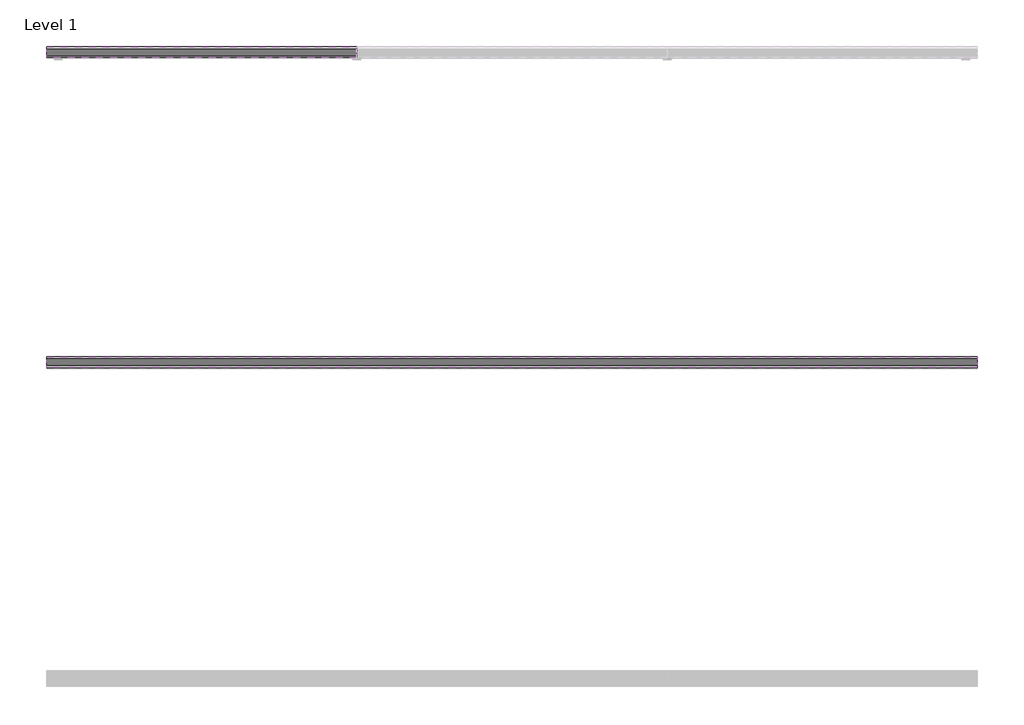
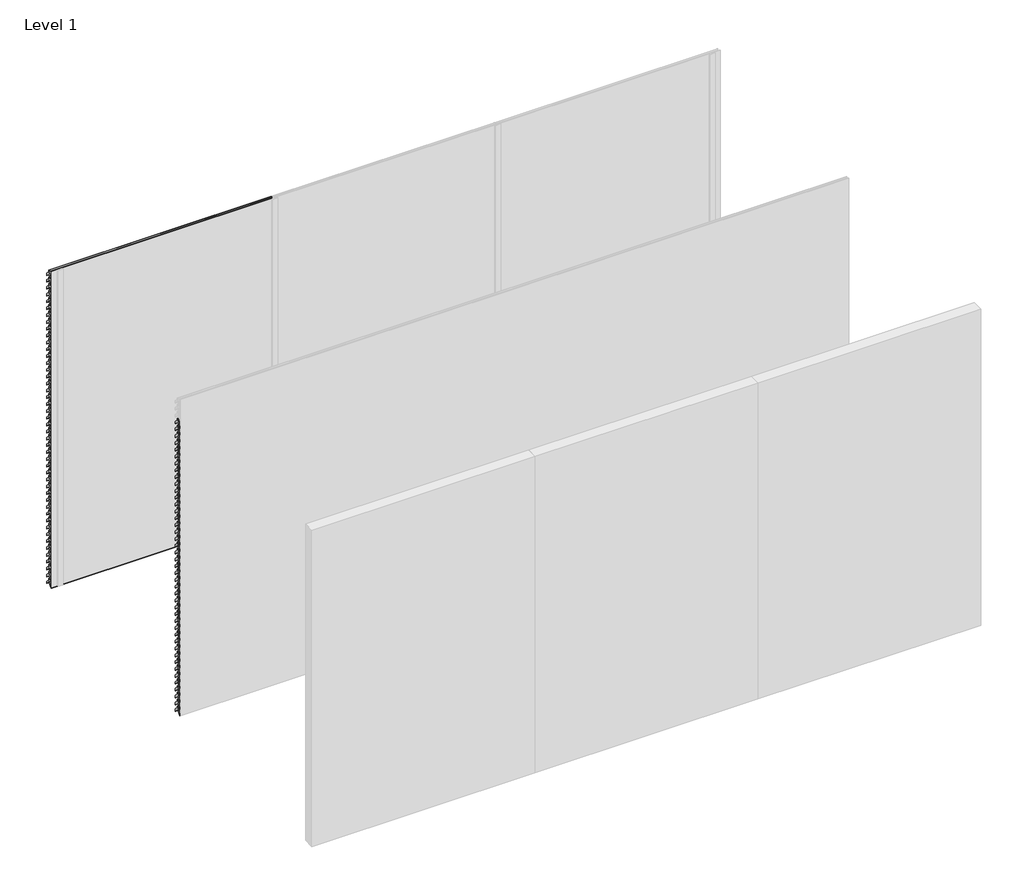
# One storey, part 8 of 9: 89 proxies.
"""IFC4 building model written with IfcOpenShell, lengths in millimetres."""

from ifc_helpers import new_model, si_unit, frame, origin, place, context, project, spatial, polyline, outline, extrude, element, save

model = new_model("IFC4")

# Units and contexts
model_context = context("Model", 3, world=origin())
ifc_project = project(units=[si_unit("LENGTHUNIT", "METRE", prefix="MILLI")], contexts=[model_context])

# Site, building, storey
site = spatial("IfcSite", under=ifc_project)
building = spatial("IfcBuilding", under=site)
storey = spatial("IfcBuildingStorey", under=building, Name="Level 1", Elevation=0.0)

# Proxies
placement = place(None, origin())
element("IfcBuildingElementProxy", 1, Name="Wall Sweeps", at=placement, inside=storey, context=model_context, shape_type="SweptSolid", body=[
    extrude(outline(polyline([(74.0, 2942.0), (74.0, 2919.0), (38.5, 2954.5), (3.0, 2919.0), (3.0, 2942.0), (37.5, 2976.5), (37.5, 2990.0), (39.5, 2990.0), (39.5, 2976.5), (74.0, 2942.0)])), frame((0.0, 0.0, 0.0), z_axis=(1.0, 0.0, 0.0), x_axis=(0.0, 1.0, 0.0)), (0.0, 0.0, 1.0), 2000.0),
])
element("IfcBuildingElementProxy", 2, Name="Wall Sweeps", at=placement, inside=storey, context=model_context, shape_type="SweptSolid", body=[
    extrude(outline(polyline([(74.0, 2877.0), (74.0, 2854.0), (38.5, 2889.5), (3.0, 2854.0), (3.0, 2877.0), (37.5, 2911.5), (37.5, 2925.0), (39.5, 2925.0), (39.5, 2911.5), (74.0, 2877.0)])), frame((0.0, 0.0, 0.0), z_axis=(1.0, 0.0, 0.0), x_axis=(0.0, 1.0, 0.0)), (0.0, 0.0, 1.0), 2000.0),
])
element("IfcBuildingElementProxy", 3, Name="Wall Sweeps", at=placement, inside=storey, context=model_context, shape_type="SweptSolid", body=[
    extrude(outline(polyline([(74.0, 2812.0), (74.0, 2789.0), (38.5, 2824.5), (3.0, 2789.0), (3.0, 2812.0), (37.5, 2846.5), (37.5, 2860.0), (39.5, 2860.0), (39.5, 2846.5), (74.0, 2812.0)])), frame((0.0, 0.0, 0.0), z_axis=(1.0, 0.0, 0.0), x_axis=(0.0, 1.0, 0.0)), (0.0, 0.0, 1.0), 2000.0),
])
element("IfcBuildingElementProxy", 4, Name="Wall Sweeps", at=placement, inside=storey, context=model_context, shape_type="SweptSolid", body=[
    extrude(outline(polyline([(74.0, 2747.0), (74.0, 2724.0), (38.5, 2759.5), (3.0, 2724.0), (3.0, 2747.0), (37.5, 2781.5), (37.5, 2795.0), (39.5, 2795.0), (39.5, 2781.5), (74.0, 2747.0)])), frame((0.0, 0.0, 0.0), z_axis=(1.0, 0.0, 0.0), x_axis=(0.0, 1.0, 0.0)), (0.0, 0.0, 1.0), 2000.0),
])
element("IfcBuildingElementProxy", 5, Name="Wall Sweeps", at=placement, inside=storey, context=model_context, shape_type="SweptSolid", body=[
    extrude(outline(polyline([(74.0, 2682.0), (74.0, 2659.0), (38.5, 2694.5), (3.0, 2659.0), (3.0, 2682.0), (37.5, 2716.5), (37.5, 2730.0), (39.5, 2730.0), (39.5, 2716.5), (74.0, 2682.0)])), frame((0.0, 0.0, 0.0), z_axis=(1.0, 0.0, 0.0), x_axis=(0.0, 1.0, 0.0)), (0.0, 0.0, 1.0), 2000.0),
])
element("IfcBuildingElementProxy", 6, Name="Wall Sweeps", at=placement, inside=storey, context=model_context, shape_type="SweptSolid", body=[
    extrude(outline(polyline([(74.0, 2617.0), (74.0, 2594.0), (38.5, 2629.5), (3.0, 2594.0), (3.0, 2617.0), (37.5, 2651.5), (37.5, 2665.0), (39.5, 2665.0), (39.5, 2651.5), (74.0, 2617.0)])), frame((0.0, 0.0, 0.0), z_axis=(1.0, 0.0, 0.0), x_axis=(0.0, 1.0, 0.0)), (0.0, 0.0, 1.0), 2000.0),
])
element("IfcBuildingElementProxy", 7, Name="Wall Sweeps", at=placement, inside=storey, context=model_context, shape_type="SweptSolid", body=[
    extrude(outline(polyline([(74.0, 2552.0), (74.0, 2529.0), (38.5, 2564.5), (3.0, 2529.0), (3.0, 2552.0), (37.5, 2586.5), (37.5, 2600.0), (39.5, 2600.0), (39.5, 2586.5), (74.0, 2552.0)])), frame((0.0, 0.0, 0.0), z_axis=(1.0, 0.0, 0.0), x_axis=(0.0, 1.0, 0.0)), (0.0, 0.0, 1.0), 2000.0),
])
element("IfcBuildingElementProxy", 8, Name="Wall Sweeps", at=placement, inside=storey, context=model_context, shape_type="SweptSolid", body=[
    extrude(outline(polyline([(74.0, 2487.0), (74.0, 2464.0), (38.5, 2499.5), (3.0, 2464.0), (3.0, 2487.0), (37.5, 2521.5), (37.5, 2535.0), (39.5, 2535.0), (39.5, 2521.5), (74.0, 2487.0)])), frame((0.0, 0.0, 0.0), z_axis=(1.0, 0.0, 0.0), x_axis=(0.0, 1.0, 0.0)), (0.0, 0.0, 1.0), 2000.0),
])
element("IfcBuildingElementProxy", 9, Name="Wall Sweeps", at=placement, inside=storey, context=model_context, shape_type="SweptSolid", body=[
    extrude(outline(polyline([(74.0, 2422.0), (74.0, 2399.0), (38.5, 2434.5), (3.0, 2399.0), (3.0, 2422.0), (37.5, 2456.5), (37.5, 2470.0), (39.5, 2470.0), (39.5, 2456.5), (74.0, 2422.0)])), frame((0.0, 0.0, 0.0), z_axis=(1.0, 0.0, 0.0), x_axis=(0.0, 1.0, 0.0)), (0.0, 0.0, 1.0), 2000.0),
])
element("IfcBuildingElementProxy", 10, Name="Wall Sweeps", at=placement, inside=storey, context=model_context, shape_type="SweptSolid", body=[
    extrude(outline(polyline([(74.0, 2357.0), (74.0, 2334.0), (38.5, 2369.5), (3.0, 2334.0), (3.0, 2357.0), (37.5, 2391.5), (37.5, 2405.0), (39.5, 2405.0), (39.5, 2391.5), (74.0, 2357.0)])), frame((0.0, 0.0, 0.0), z_axis=(1.0, 0.0, 0.0), x_axis=(0.0, 1.0, 0.0)), (0.0, 0.0, 1.0), 2000.0),
])
element("IfcBuildingElementProxy", 11, Name="Wall Sweeps", at=placement, inside=storey, context=model_context, shape_type="SweptSolid", body=[
    extrude(outline(polyline([(74.0, 2292.0), (74.0, 2269.0), (38.5, 2304.5), (3.0, 2269.0), (3.0, 2292.0), (37.5, 2326.5), (37.5, 2340.0), (39.5, 2340.0), (39.5, 2326.5), (74.0, 2292.0)])), frame((0.0, 0.0, 0.0), z_axis=(1.0, 0.0, 0.0), x_axis=(0.0, 1.0, 0.0)), (0.0, 0.0, 1.0), 2000.0),
])
element("IfcBuildingElementProxy", 12, Name="Wall Sweeps", at=placement, inside=storey, context=model_context, shape_type="SweptSolid", body=[
    extrude(outline(polyline([(74.0, 2227.0), (74.0, 2204.0), (38.5, 2239.5), (3.0, 2204.0), (3.0, 2227.0), (37.5, 2261.5), (37.5, 2275.0), (39.5, 2275.0), (39.5, 2261.5), (74.0, 2227.0)])), frame((0.0, 0.0, 0.0), z_axis=(1.0, 0.0, 0.0), x_axis=(0.0, 1.0, 0.0)), (0.0, 0.0, 1.0), 2000.0),
])
element("IfcBuildingElementProxy", 13, Name="Wall Sweeps", at=placement, inside=storey, context=model_context, shape_type="SweptSolid", body=[
    extrude(outline(polyline([(74.0, 2162.0), (74.0, 2139.0), (38.5, 2174.5), (3.0, 2139.0), (3.0, 2162.0), (37.5, 2196.5), (37.5, 2210.0), (39.5, 2210.0), (39.5, 2196.5), (74.0, 2162.0)])), frame((0.0, 0.0, 0.0), z_axis=(1.0, 0.0, 0.0), x_axis=(0.0, 1.0, 0.0)), (0.0, 0.0, 1.0), 2000.0),
])
element("IfcBuildingElementProxy", 14, Name="Wall Sweeps", at=placement, inside=storey, context=model_context, shape_type="SweptSolid", body=[
    extrude(outline(polyline([(74.0, 2097.0), (74.0, 2074.0), (38.5, 2109.5), (3.0, 2074.0), (3.0, 2097.0), (37.5, 2131.5), (37.5, 2145.0), (39.5, 2145.0), (39.5, 2131.5), (74.0, 2097.0)])), frame((0.0, 0.0, 0.0), z_axis=(1.0, 0.0, 0.0), x_axis=(0.0, 1.0, 0.0)), (0.0, 0.0, 1.0), 2000.0),
])
element("IfcBuildingElementProxy", 15, Name="Wall Sweeps", at=placement, inside=storey, context=model_context, shape_type="SweptSolid", body=[
    extrude(outline(polyline([(74.0, 2032.0), (74.0, 2009.0), (38.5, 2044.5), (3.0, 2009.0), (3.0, 2032.0), (37.5, 2066.5), (37.5, 2080.0), (39.5, 2080.0), (39.5, 2066.5), (74.0, 2032.0)])), frame((0.0, 0.0, 0.0), z_axis=(1.0, 0.0, 0.0), x_axis=(0.0, 1.0, 0.0)), (0.0, 0.0, 1.0), 2000.0),
])
element("IfcBuildingElementProxy", 16, Name="Wall Sweeps", at=placement, inside=storey, context=model_context, shape_type="SweptSolid", body=[
    extrude(outline(polyline([(74.0, 1967.0), (74.0, 1944.0), (38.5, 1979.5), (3.0, 1944.0), (3.0, 1967.0), (37.5, 2001.5), (37.5, 2015.0), (39.5, 2015.0), (39.5, 2001.5), (74.0, 1967.0)])), frame((0.0, 0.0, 0.0), z_axis=(1.0, 0.0, 0.0), x_axis=(0.0, 1.0, 0.0)), (0.0, 0.0, 1.0), 2000.0),
])
element("IfcBuildingElementProxy", 17, Name="Wall Sweeps", at=placement, inside=storey, context=model_context, shape_type="SweptSolid", body=[
    extrude(outline(polyline([(74.0, 1902.0), (74.0, 1879.0), (38.5, 1914.5), (3.0, 1879.0), (3.0, 1902.0), (37.5, 1936.5), (37.5, 1950.0), (39.5, 1950.0), (39.5, 1936.5), (74.0, 1902.0)])), frame((0.0, 0.0, 0.0), z_axis=(1.0, 0.0, 0.0), x_axis=(0.0, 1.0, 0.0)), (0.0, 0.0, 1.0), 2000.0),
])
element("IfcBuildingElementProxy", 18, Name="Wall Sweeps", at=placement, inside=storey, context=model_context, shape_type="SweptSolid", body=[
    extrude(outline(polyline([(74.0, 1837.0), (74.0, 1814.0), (38.5, 1849.5), (3.0, 1814.0), (3.0, 1837.0), (37.5, 1871.5), (37.5, 1885.0), (39.5, 1885.0), (39.5, 1871.5), (74.0, 1837.0)])), frame((0.0, 0.0, 0.0), z_axis=(1.0, 0.0, 0.0), x_axis=(0.0, 1.0, 0.0)), (0.0, 0.0, 1.0), 2000.0),
])
element("IfcBuildingElementProxy", 19, Name="Wall Sweeps", at=placement, inside=storey, context=model_context, shape_type="SweptSolid", body=[
    extrude(outline(polyline([(74.0, 1772.0), (74.0, 1749.0), (38.5, 1784.5), (3.0, 1749.0), (3.0, 1772.0), (37.5, 1806.5), (37.5, 1820.0), (39.5, 1820.0), (39.5, 1806.5), (74.0, 1772.0)])), frame((0.0, 0.0, 0.0), z_axis=(1.0, 0.0, 0.0), x_axis=(0.0, 1.0, 0.0)), (0.0, 0.0, 1.0), 2000.0),
])
element("IfcBuildingElementProxy", 20, Name="Wall Sweeps", at=placement, inside=storey, context=model_context, shape_type="SweptSolid", body=[
    extrude(outline(polyline([(74.0, 1707.0), (74.0, 1684.0), (38.5, 1719.5), (3.0, 1684.0), (3.0, 1707.0), (37.5, 1741.5), (37.5, 1755.0), (39.5, 1755.0), (39.5, 1741.5), (74.0, 1707.0)])), frame((0.0, 0.0, 0.0), z_axis=(1.0, 0.0, 0.0), x_axis=(0.0, 1.0, 0.0)), (0.0, 0.0, 1.0), 2000.0),
])
element("IfcBuildingElementProxy", 21, Name="Wall Sweeps", at=placement, inside=storey, context=model_context, shape_type="SweptSolid", body=[
    extrude(outline(polyline([(74.0, 1642.0), (74.0, 1619.0), (38.5, 1654.5), (3.0, 1619.0), (3.0, 1642.0), (37.5, 1676.5), (37.5, 1690.0), (39.5, 1690.0), (39.5, 1676.5), (74.0, 1642.0)])), frame((0.0, 0.0, 0.0), z_axis=(1.0, 0.0, 0.0), x_axis=(0.0, 1.0, 0.0)), (0.0, 0.0, 1.0), 2000.0),
])
element("IfcBuildingElementProxy", 22, Name="Wall Sweeps", at=placement, inside=storey, context=model_context, shape_type="SweptSolid", body=[
    extrude(outline(polyline([(74.0, 1577.0), (74.0, 1554.0), (38.5, 1589.5), (3.0, 1554.0), (3.0, 1577.0), (37.5, 1611.5), (37.5, 1625.0), (39.5, 1625.0), (39.5, 1611.5), (74.0, 1577.0)])), frame((0.0, 0.0, 0.0), z_axis=(1.0, 0.0, 0.0), x_axis=(0.0, 1.0, 0.0)), (0.0, 0.0, 1.0), 2000.0),
])
element("IfcBuildingElementProxy", 23, Name="Wall Sweeps", at=placement, inside=storey, context=model_context, shape_type="SweptSolid", body=[
    extrude(outline(polyline([(74.0, 1512.0), (74.0, 1489.0), (38.5, 1524.5), (3.0, 1489.0), (3.0, 1512.0), (37.5, 1546.5), (37.5, 1560.0), (39.5, 1560.0), (39.5, 1546.5), (74.0, 1512.0)])), frame((0.0, 0.0, 0.0), z_axis=(1.0, 0.0, 0.0), x_axis=(0.0, 1.0, 0.0)), (0.0, 0.0, 1.0), 2000.0),
])
element("IfcBuildingElementProxy", 24, Name="Wall Sweeps", at=placement, inside=storey, context=model_context, shape_type="SweptSolid", body=[
    extrude(outline(polyline([(74.0, 1447.0), (74.0, 1424.0), (38.5, 1459.5), (3.0, 1424.0), (3.0, 1447.0), (37.5, 1481.5), (37.5, 1495.0), (39.5, 1495.0), (39.5, 1481.5), (74.0, 1447.0)])), frame((0.0, 0.0, 0.0), z_axis=(1.0, 0.0, 0.0), x_axis=(0.0, 1.0, 0.0)), (0.0, 0.0, 1.0), 2000.0),
])
element("IfcBuildingElementProxy", 25, Name="Wall Sweeps", at=placement, inside=storey, context=model_context, shape_type="SweptSolid", body=[
    extrude(outline(polyline([(74.0, 1382.0), (74.0, 1359.0), (38.5, 1394.5), (3.0, 1359.0), (3.0, 1382.0), (37.5, 1416.5), (37.5, 1430.0), (39.5, 1430.0), (39.5, 1416.5), (74.0, 1382.0)])), frame((0.0, 0.0, 0.0), z_axis=(1.0, 0.0, 0.0), x_axis=(0.0, 1.0, 0.0)), (0.0, 0.0, 1.0), 2000.0),
])
element("IfcBuildingElementProxy", 26, Name="Wall Sweeps", at=placement, inside=storey, context=model_context, shape_type="SweptSolid", body=[
    extrude(outline(polyline([(74.0, 1317.0), (74.0, 1294.0), (38.5, 1329.5), (3.0, 1294.0), (3.0, 1317.0), (37.5, 1351.5), (37.5, 1365.0), (39.5, 1365.0), (39.5, 1351.5), (74.0, 1317.0)])), frame((0.0, 0.0, 0.0), z_axis=(1.0, 0.0, 0.0), x_axis=(0.0, 1.0, 0.0)), (0.0, 0.0, 1.0), 2000.0),
])
element("IfcBuildingElementProxy", 27, Name="Wall Sweeps", at=placement, inside=storey, context=model_context, shape_type="SweptSolid", body=[
    extrude(outline(polyline([(74.0, 1252.0), (74.0, 1229.0), (38.5, 1264.5), (3.0, 1229.0), (3.0, 1252.0), (37.5, 1286.5), (37.5, 1300.0), (39.5, 1300.0), (39.5, 1286.5), (74.0, 1252.0)])), frame((0.0, 0.0, 0.0), z_axis=(1.0, 0.0, 0.0), x_axis=(0.0, 1.0, 0.0)), (0.0, 0.0, 1.0), 2000.0),
])
element("IfcBuildingElementProxy", 28, Name="Wall Sweeps", at=placement, inside=storey, context=model_context, shape_type="SweptSolid", body=[
    extrude(outline(polyline([(74.0, 1187.0), (74.0, 1164.0), (38.5, 1199.5), (3.0, 1164.0), (3.0, 1187.0), (37.5, 1221.5), (37.5, 1235.0), (39.5, 1235.0), (39.5, 1221.5), (74.0, 1187.0)])), frame((0.0, 0.0, 0.0), z_axis=(1.0, 0.0, 0.0), x_axis=(0.0, 1.0, 0.0)), (0.0, 0.0, 1.0), 2000.0),
])
element("IfcBuildingElementProxy", 29, Name="Wall Sweeps", at=placement, inside=storey, context=model_context, shape_type="SweptSolid", body=[
    extrude(outline(polyline([(74.0, 1122.0), (74.0, 1099.0), (38.5, 1134.5), (3.0, 1099.0), (3.0, 1122.0), (37.5, 1156.5), (37.5, 1170.0), (39.5, 1170.0), (39.5, 1156.5), (74.0, 1122.0)])), frame((0.0, 0.0, 0.0), z_axis=(1.0, 0.0, 0.0), x_axis=(0.0, 1.0, 0.0)), (0.0, 0.0, 1.0), 2000.0),
])
element("IfcBuildingElementProxy", 30, Name="Wall Sweeps", at=placement, inside=storey, context=model_context, shape_type="SweptSolid", body=[
    extrude(outline(polyline([(74.0, 1057.0), (74.0, 1034.0), (38.5, 1069.5), (3.0, 1034.0), (3.0, 1057.0), (37.5, 1091.5), (37.5, 1105.0), (39.5, 1105.0), (39.5, 1091.5), (74.0, 1057.0)])), frame((0.0, 0.0, 0.0), z_axis=(1.0, 0.0, 0.0), x_axis=(0.0, 1.0, 0.0)), (0.0, 0.0, 1.0), 2000.0),
])
element("IfcBuildingElementProxy", 31, Name="Wall Sweeps", at=placement, inside=storey, context=model_context, shape_type="SweptSolid", body=[
    extrude(outline(polyline([(74.0, 992.0), (74.0, 969.0), (38.5, 1004.5), (3.0, 969.0), (3.0, 992.0), (37.5, 1026.5), (37.5, 1040.0), (39.5, 1040.0), (39.5, 1026.5), (74.0, 992.0)])), frame((0.0, 0.0, 0.0), z_axis=(1.0, 0.0, 0.0), x_axis=(0.0, 1.0, 0.0)), (0.0, 0.0, 1.0), 2000.0),
])
element("IfcBuildingElementProxy", 32, Name="Wall Sweeps", at=placement, inside=storey, context=model_context, shape_type="SweptSolid", body=[
    extrude(outline(polyline([(74.0, 927.0), (74.0, 904.0), (38.5, 939.5), (3.0, 904.0), (3.0, 927.0), (37.5, 961.5), (37.5, 975.0), (39.5, 975.0), (39.5, 961.5), (74.0, 927.0)])), frame((0.0, 0.0, 0.0), z_axis=(1.0, 0.0, 0.0), x_axis=(0.0, 1.0, 0.0)), (0.0, 0.0, 1.0), 2000.0),
])
element("IfcBuildingElementProxy", 33, Name="Wall Sweeps", at=placement, inside=storey, context=model_context, shape_type="SweptSolid", body=[
    extrude(outline(polyline([(74.0, 862.0), (74.0, 839.0), (38.5, 874.5), (3.0, 839.0), (3.0, 862.0), (37.5, 896.5), (37.5, 910.0), (39.5, 910.0), (39.5, 896.5), (74.0, 862.0)])), frame((0.0, 0.0, 0.0), z_axis=(1.0, 0.0, 0.0), x_axis=(0.0, 1.0, 0.0)), (0.0, 0.0, 1.0), 2000.0),
])
element("IfcBuildingElementProxy", 34, Name="Wall Sweeps", at=placement, inside=storey, context=model_context, shape_type="SweptSolid", body=[
    extrude(outline(polyline([(74.0, 797.0), (74.0, 774.0), (38.5, 809.5), (3.0, 774.0), (3.0, 797.0), (37.5, 831.5), (37.5, 845.0), (39.5, 845.0), (39.5, 831.5), (74.0, 797.0)])), frame((0.0, 0.0, 0.0), z_axis=(1.0, 0.0, 0.0), x_axis=(0.0, 1.0, 0.0)), (0.0, 0.0, 1.0), 2000.0),
])
element("IfcBuildingElementProxy", 35, Name="Wall Sweeps", at=placement, inside=storey, context=model_context, shape_type="SweptSolid", body=[
    extrude(outline(polyline([(74.0, 732.0), (74.0, 709.0), (38.5, 744.5), (3.0, 709.0), (3.0, 732.0), (37.5, 766.5), (37.5, 780.0), (39.5, 780.0), (39.5, 766.5), (74.0, 732.0)])), frame((0.0, 0.0, 0.0), z_axis=(1.0, 0.0, 0.0), x_axis=(0.0, 1.0, 0.0)), (0.0, 0.0, 1.0), 2000.0),
])
element("IfcBuildingElementProxy", 36, Name="Wall Sweeps", at=placement, inside=storey, context=model_context, shape_type="SweptSolid", body=[
    extrude(outline(polyline([(74.0, 667.0), (74.0, 644.0), (38.5, 679.5), (3.0, 644.0), (3.0, 667.0), (37.5, 701.5), (37.5, 715.0), (39.5, 715.0), (39.5, 701.5), (74.0, 667.0)])), frame((0.0, 0.0, 0.0), z_axis=(1.0, 0.0, 0.0), x_axis=(0.0, 1.0, 0.0)), (0.0, 0.0, 1.0), 2000.0),
])
element("IfcBuildingElementProxy", 37, Name="Wall Sweeps", at=placement, inside=storey, context=model_context, shape_type="SweptSolid", body=[
    extrude(outline(polyline([(74.0, 602.0), (74.0, 579.0), (38.5, 614.5), (3.0, 579.0), (3.0, 602.0), (37.5, 636.5), (37.5, 650.0), (39.5, 650.0), (39.5, 636.5), (74.0, 602.0)])), frame((0.0, 0.0, 0.0), z_axis=(1.0, 0.0, 0.0), x_axis=(0.0, 1.0, 0.0)), (0.0, 0.0, 1.0), 2000.0),
])
element("IfcBuildingElementProxy", 38, Name="Wall Sweeps", at=placement, inside=storey, context=model_context, shape_type="SweptSolid", body=[
    extrude(outline(polyline([(74.0, 537.0), (74.0, 514.0), (38.5, 549.5), (3.0, 514.0), (3.0, 537.0), (37.5, 571.5), (37.5, 585.0), (39.5, 585.0), (39.5, 571.5), (74.0, 537.0)])), frame((0.0, 0.0, 0.0), z_axis=(1.0, 0.0, 0.0), x_axis=(0.0, 1.0, 0.0)), (0.0, 0.0, 1.0), 2000.0),
])
element("IfcBuildingElementProxy", 39, Name="Wall Sweeps", at=placement, inside=storey, context=model_context, shape_type="SweptSolid", body=[
    extrude(outline(polyline([(74.0, 472.0), (74.0, 449.0), (38.5, 484.5), (3.0, 449.0), (3.0, 472.0), (37.5, 506.5), (37.5, 520.0), (39.5, 520.0), (39.5, 506.5), (74.0, 472.0)])), frame((0.0, 0.0, 0.0), z_axis=(1.0, 0.0, 0.0), x_axis=(0.0, 1.0, 0.0)), (0.0, 0.0, 1.0), 2000.0),
])
element("IfcBuildingElementProxy", 40, Name="Wall Sweeps", at=placement, inside=storey, context=model_context, shape_type="SweptSolid", body=[
    extrude(outline(polyline([(74.0, 407.0), (74.0, 384.0), (38.5, 419.5), (3.0, 384.0), (3.0, 407.0), (37.5, 441.5), (37.5, 455.0), (39.5, 455.0), (39.5, 441.5), (74.0, 407.0)])), frame((0.0, 0.0, 0.0), z_axis=(1.0, 0.0, 0.0), x_axis=(0.0, 1.0, 0.0)), (0.0, 0.0, 1.0), 2000.0),
])
element("IfcBuildingElementProxy", 41, Name="Wall Sweeps", at=placement, inside=storey, context=model_context, shape_type="SweptSolid", body=[
    extrude(outline(polyline([(74.0, 342.0), (74.0, 319.0), (38.5, 354.5), (3.0, 319.0), (3.0, 342.0), (37.5, 376.5), (37.5, 390.0), (39.5, 390.0), (39.5, 376.5), (74.0, 342.0)])), frame((0.0, 0.0, 0.0), z_axis=(1.0, 0.0, 0.0), x_axis=(0.0, 1.0, 0.0)), (0.0, 0.0, 1.0), 2000.0),
])
element("IfcBuildingElementProxy", 42, Name="Wall Sweeps", at=placement, inside=storey, context=model_context, shape_type="SweptSolid", body=[
    extrude(outline(polyline([(74.0, 277.0), (74.0, 254.0), (38.5, 289.5), (3.0, 254.0), (3.0, 277.0), (37.5, 311.5), (37.5, 325.0), (39.5, 325.0), (39.5, 311.5), (74.0, 277.0)])), frame((0.0, 0.0, 0.0), z_axis=(1.0, 0.0, 0.0), x_axis=(0.0, 1.0, 0.0)), (0.0, 0.0, 1.0), 2000.0),
])
element("IfcBuildingElementProxy", 43, Name="Wall Sweeps", at=placement, inside=storey, context=model_context, shape_type="SweptSolid", body=[
    extrude(outline(polyline([(74.0, 212.0), (74.0, 189.0), (38.5, 224.5), (3.0, 189.0), (3.0, 212.0), (37.5, 246.5), (37.5, 260.0), (39.5, 260.0), (39.5, 246.5), (74.0, 212.0)])), frame((0.0, 0.0, 0.0), z_axis=(1.0, 0.0, 0.0), x_axis=(0.0, 1.0, 0.0)), (0.0, 0.0, 1.0), 2000.0),
])
element("IfcBuildingElementProxy", 44, Name="Wall Sweeps", at=placement, inside=storey, context=model_context, shape_type="SweptSolid", body=[
    extrude(outline(polyline([(74.0, 147.0), (74.0, 124.0), (38.5, 159.5), (3.0, 124.0), (3.0, 147.0), (37.5, 181.5), (37.5, 195.0), (39.5, 195.0), (39.5, 181.5), (74.0, 147.0)])), frame((0.0, 0.0, 0.0), z_axis=(1.0, 0.0, 0.0), x_axis=(0.0, 1.0, 0.0)), (0.0, 0.0, 1.0), 2000.0),
])
element("IfcBuildingElementProxy", 45, Name="Wall Sweeps", at=placement, inside=storey, context=model_context, shape_type="SweptSolid", body=[
    extrude(outline(polyline([(74.0, 82.0), (74.0, 59.0), (38.5, 94.5), (3.0, 59.0), (3.0, 82.0), (37.5, 116.5), (37.5, 130.0), (39.5, 130.0), (39.5, 116.5), (74.0, 82.0)])), frame((0.0, 0.0, 0.0), z_axis=(1.0, 0.0, 0.0), x_axis=(0.0, 1.0, 0.0)), (0.0, 0.0, 1.0), 2000.0),
])
element("IfcBuildingElementProxy", 46, Name="Wall Sweeps", at=placement, inside=storey, context=model_context, shape_type="SweptSolid", body=[
    extrude(outline(polyline([(74.0, 17.0), (74.0, -6.0), (38.5, 29.5), (3.0, -6.0), (3.0, 17.0), (37.5, 51.5), (37.5, 65.0), (39.5, 65.0), (39.5, 51.5), (74.0, 17.0)])), frame((0.0, 0.0, 0.0), z_axis=(1.0, 0.0, 0.0), x_axis=(0.0, 1.0, 0.0)), (0.0, 0.0, 1.0), 2000.0),
])
element("IfcBuildingElementProxy", 47, Name="Wall Sweeps", at=placement, inside=storey, context=model_context, shape_type="SweptSolid", body=[
    extrude(outline(polyline([(-1926.0, 2747.0), (-1926.0, 2724.0), (-1961.5, 2759.5), (-1997.0, 2724.0), (-1997.0, 2747.0), (-1962.5, 2781.5), (-1962.5, 2795.0), (-1960.5, 2795.0), (-1960.5, 2781.5), (-1926.0, 2747.0)])), frame((0.0, 0.0, 0.0), z_axis=(1.0, 0.0, 0.0), x_axis=(0.0, 1.0, 0.0)), (0.0, 0.0, 1.0), 6000.0),
])
element("IfcBuildingElementProxy", 48, Name="Wall Sweeps", at=placement, inside=storey, context=model_context, shape_type="SweptSolid", body=[
    extrude(outline(polyline([(-1926.0, 2682.0), (-1926.0, 2659.0), (-1961.5, 2694.5), (-1997.0, 2659.0), (-1997.0, 2682.0), (-1962.5, 2716.5), (-1962.5, 2730.0), (-1960.5, 2730.0), (-1960.5, 2716.5), (-1926.0, 2682.0)])), frame((0.0, 0.0, 0.0), z_axis=(1.0, 0.0, 0.0), x_axis=(0.0, 1.0, 0.0)), (0.0, 0.0, 1.0), 6000.0),
])
element("IfcBuildingElementProxy", 49, Name="Wall Sweeps", at=placement, inside=storey, context=model_context, shape_type="SweptSolid", body=[
    extrude(outline(polyline([(-1926.0, 2617.0), (-1926.0, 2594.0), (-1961.5, 2629.5), (-1997.0, 2594.0), (-1997.0, 2617.0), (-1962.5, 2651.5), (-1962.5, 2665.0), (-1960.5, 2665.0), (-1960.5, 2651.5), (-1926.0, 2617.0)])), frame((0.0, 0.0, 0.0), z_axis=(1.0, 0.0, 0.0), x_axis=(0.0, 1.0, 0.0)), (0.0, 0.0, 1.0), 6000.0),
])
element("IfcBuildingElementProxy", 50, Name="Wall Sweeps", at=placement, inside=storey, context=model_context, shape_type="SweptSolid", body=[
    extrude(outline(polyline([(-1926.0, 2552.0), (-1926.0, 2529.0), (-1961.5, 2564.5), (-1997.0, 2529.0), (-1997.0, 2552.0), (-1962.5, 2586.5), (-1962.5, 2600.0), (-1960.5, 2600.0), (-1960.5, 2586.5), (-1926.0, 2552.0)])), frame((0.0, 0.0, 0.0), z_axis=(1.0, 0.0, 0.0), x_axis=(0.0, 1.0, 0.0)), (0.0, 0.0, 1.0), 6000.0),
])
element("IfcBuildingElementProxy", 51, Name="Wall Sweeps", at=placement, inside=storey, context=model_context, shape_type="SweptSolid", body=[
    extrude(outline(polyline([(-1926.0, 2487.0), (-1926.0, 2464.0), (-1961.5, 2499.5), (-1997.0, 2464.0), (-1997.0, 2487.0), (-1962.5, 2521.5), (-1962.5, 2535.0), (-1960.5, 2535.0), (-1960.5, 2521.5), (-1926.0, 2487.0)])), frame((0.0, 0.0, 0.0), z_axis=(1.0, 0.0, 0.0), x_axis=(0.0, 1.0, 0.0)), (0.0, 0.0, 1.0), 6000.0),
])
element("IfcBuildingElementProxy", 52, Name="Wall Sweeps", at=placement, inside=storey, context=model_context, shape_type="SweptSolid", body=[
    extrude(outline(polyline([(-1926.0, 2422.0), (-1926.0, 2399.0), (-1961.5, 2434.5), (-1997.0, 2399.0), (-1997.0, 2422.0), (-1962.5, 2456.5), (-1962.5, 2470.0), (-1960.5, 2470.0), (-1960.5, 2456.5), (-1926.0, 2422.0)])), frame((0.0, 0.0, 0.0), z_axis=(1.0, 0.0, 0.0), x_axis=(0.0, 1.0, 0.0)), (0.0, 0.0, 1.0), 6000.0),
])
element("IfcBuildingElementProxy", 53, Name="Wall Sweeps", at=placement, inside=storey, context=model_context, shape_type="SweptSolid", body=[
    extrude(outline(polyline([(-1926.0, 2357.0), (-1926.0, 2334.0), (-1961.5, 2369.5), (-1997.0, 2334.0), (-1997.0, 2357.0), (-1962.5, 2391.5), (-1962.5, 2405.0), (-1960.5, 2405.0), (-1960.5, 2391.5), (-1926.0, 2357.0)])), frame((0.0, 0.0, 0.0), z_axis=(1.0, 0.0, 0.0), x_axis=(0.0, 1.0, 0.0)), (0.0, 0.0, 1.0), 6000.0),
])
element("IfcBuildingElementProxy", 54, Name="Wall Sweeps", at=placement, inside=storey, context=model_context, shape_type="SweptSolid", body=[
    extrude(outline(polyline([(-1926.0, 2292.0), (-1926.0, 2269.0), (-1961.5, 2304.5), (-1997.0, 2269.0), (-1997.0, 2292.0), (-1962.5, 2326.5), (-1962.5, 2340.0), (-1960.5, 2340.0), (-1960.5, 2326.5), (-1926.0, 2292.0)])), frame((0.0, 0.0, 0.0), z_axis=(1.0, 0.0, 0.0), x_axis=(0.0, 1.0, 0.0)), (0.0, 0.0, 1.0), 6000.0),
])
element("IfcBuildingElementProxy", 55, Name="Wall Sweeps", at=placement, inside=storey, context=model_context, shape_type="SweptSolid", body=[
    extrude(outline(polyline([(-1926.0, 2227.0), (-1926.0, 2204.0), (-1961.5, 2239.5), (-1997.0, 2204.0), (-1997.0, 2227.0), (-1962.5, 2261.5), (-1962.5, 2275.0), (-1960.5, 2275.0), (-1960.5, 2261.5), (-1926.0, 2227.0)])), frame((0.0, 0.0, 0.0), z_axis=(1.0, 0.0, 0.0), x_axis=(0.0, 1.0, 0.0)), (0.0, 0.0, 1.0), 6000.0),
])
element("IfcBuildingElementProxy", 56, Name="Wall Sweeps", at=placement, inside=storey, context=model_context, shape_type="SweptSolid", body=[
    extrude(outline(polyline([(-1926.0, 2162.0), (-1926.0, 2139.0), (-1961.5, 2174.5), (-1997.0, 2139.0), (-1997.0, 2162.0), (-1962.5, 2196.5), (-1962.5, 2210.0), (-1960.5, 2210.0), (-1960.5, 2196.5), (-1926.0, 2162.0)])), frame((0.0, 0.0, 0.0), z_axis=(1.0, 0.0, 0.0), x_axis=(0.0, 1.0, 0.0)), (0.0, 0.0, 1.0), 6000.0),
])
element("IfcBuildingElementProxy", 57, Name="Wall Sweeps", at=placement, inside=storey, context=model_context, shape_type="SweptSolid", body=[
    extrude(outline(polyline([(-1926.0, 2097.0), (-1926.0, 2074.0), (-1961.5, 2109.5), (-1997.0, 2074.0), (-1997.0, 2097.0), (-1962.5, 2131.5), (-1962.5, 2145.0), (-1960.5, 2145.0), (-1960.5, 2131.5), (-1926.0, 2097.0)])), frame((0.0, 0.0, 0.0), z_axis=(1.0, 0.0, 0.0), x_axis=(0.0, 1.0, 0.0)), (0.0, 0.0, 1.0), 6000.0),
])
element("IfcBuildingElementProxy", 58, Name="Wall Sweeps", at=placement, inside=storey, context=model_context, shape_type="SweptSolid", body=[
    extrude(outline(polyline([(-1926.0, 2032.0), (-1926.0, 2009.0), (-1961.5, 2044.5), (-1997.0, 2009.0), (-1997.0, 2032.0), (-1962.5, 2066.5), (-1962.5, 2080.0), (-1960.5, 2080.0), (-1960.5, 2066.5), (-1926.0, 2032.0)])), frame((0.0, 0.0, 0.0), z_axis=(1.0, 0.0, 0.0), x_axis=(0.0, 1.0, 0.0)), (0.0, 0.0, 1.0), 6000.0),
])
element("IfcBuildingElementProxy", 59, Name="Wall Sweeps", at=placement, inside=storey, context=model_context, shape_type="SweptSolid", body=[
    extrude(outline(polyline([(-1926.0, 1967.0), (-1926.0, 1944.0), (-1961.5, 1979.5), (-1997.0, 1944.0), (-1997.0, 1967.0), (-1962.5, 2001.5), (-1962.5, 2015.0), (-1960.5, 2015.0), (-1960.5, 2001.5), (-1926.0, 1967.0)])), frame((0.0, 0.0, 0.0), z_axis=(1.0, 0.0, 0.0), x_axis=(0.0, 1.0, 0.0)), (0.0, 0.0, 1.0), 6000.0),
])
element("IfcBuildingElementProxy", 60, Name="Wall Sweeps", at=placement, inside=storey, context=model_context, shape_type="SweptSolid", body=[
    extrude(outline(polyline([(-1926.0, 1902.0), (-1926.0, 1879.0), (-1961.5, 1914.5), (-1997.0, 1879.0), (-1997.0, 1902.0), (-1962.5, 1936.5), (-1962.5, 1950.0), (-1960.5, 1950.0), (-1960.5, 1936.5), (-1926.0, 1902.0)])), frame((0.0, 0.0, 0.0), z_axis=(1.0, 0.0, 0.0), x_axis=(0.0, 1.0, 0.0)), (0.0, 0.0, 1.0), 6000.0),
])
element("IfcBuildingElementProxy", 61, Name="Wall Sweeps", at=placement, inside=storey, context=model_context, shape_type="SweptSolid", body=[
    extrude(outline(polyline([(-1926.0, 1837.0), (-1926.0, 1814.0), (-1961.5, 1849.5), (-1997.0, 1814.0), (-1997.0, 1837.0), (-1962.5, 1871.5), (-1962.5, 1885.0), (-1960.5, 1885.0), (-1960.5, 1871.5), (-1926.0, 1837.0)])), frame((0.0, 0.0, 0.0), z_axis=(1.0, 0.0, 0.0), x_axis=(0.0, 1.0, 0.0)), (0.0, 0.0, 1.0), 6000.0),
])
element("IfcBuildingElementProxy", 62, Name="Wall Sweeps", at=placement, inside=storey, context=model_context, shape_type="SweptSolid", body=[
    extrude(outline(polyline([(-1926.0, 1772.0), (-1926.0, 1749.0), (-1961.5, 1784.5), (-1997.0, 1749.0), (-1997.0, 1772.0), (-1962.5, 1806.5), (-1962.5, 1820.0), (-1960.5, 1820.0), (-1960.5, 1806.5), (-1926.0, 1772.0)])), frame((0.0, 0.0, 0.0), z_axis=(1.0, 0.0, 0.0), x_axis=(0.0, 1.0, 0.0)), (0.0, 0.0, 1.0), 6000.0),
])
element("IfcBuildingElementProxy", 63, Name="Wall Sweeps", at=placement, inside=storey, context=model_context, shape_type="SweptSolid", body=[
    extrude(outline(polyline([(-1926.0, 1707.0), (-1926.0, 1684.0), (-1961.5, 1719.5), (-1997.0, 1684.0), (-1997.0, 1707.0), (-1962.5, 1741.5), (-1962.5, 1755.0), (-1960.5, 1755.0), (-1960.5, 1741.5), (-1926.0, 1707.0)])), frame((0.0, 0.0, 0.0), z_axis=(1.0, 0.0, 0.0), x_axis=(0.0, 1.0, 0.0)), (0.0, 0.0, 1.0), 6000.0),
])
element("IfcBuildingElementProxy", 64, Name="Wall Sweeps", at=placement, inside=storey, context=model_context, shape_type="SweptSolid", body=[
    extrude(outline(polyline([(-1926.0, 1642.0), (-1926.0, 1619.0), (-1961.5, 1654.5), (-1997.0, 1619.0), (-1997.0, 1642.0), (-1962.5, 1676.5), (-1962.5, 1690.0), (-1960.5, 1690.0), (-1960.5, 1676.5), (-1926.0, 1642.0)])), frame((0.0, 0.0, 0.0), z_axis=(1.0, 0.0, 0.0), x_axis=(0.0, 1.0, 0.0)), (0.0, 0.0, 1.0), 6000.0),
])
element("IfcBuildingElementProxy", 65, Name="Wall Sweeps", at=placement, inside=storey, context=model_context, shape_type="SweptSolid", body=[
    extrude(outline(polyline([(-1926.0, 1577.0), (-1926.0, 1554.0), (-1961.5, 1589.5), (-1997.0, 1554.0), (-1997.0, 1577.0), (-1962.5, 1611.5), (-1962.5, 1625.0), (-1960.5, 1625.0), (-1960.5, 1611.5), (-1926.0, 1577.0)])), frame((0.0, 0.0, 0.0), z_axis=(1.0, 0.0, 0.0), x_axis=(0.0, 1.0, 0.0)), (0.0, 0.0, 1.0), 6000.0),
])
element("IfcBuildingElementProxy", 66, Name="Wall Sweeps", at=placement, inside=storey, context=model_context, shape_type="SweptSolid", body=[
    extrude(outline(polyline([(-1926.0, 1512.0), (-1926.0, 1489.0), (-1961.5, 1524.5), (-1997.0, 1489.0), (-1997.0, 1512.0), (-1962.5, 1546.5), (-1962.5, 1560.0), (-1960.5, 1560.0), (-1960.5, 1546.5), (-1926.0, 1512.0)])), frame((0.0, 0.0, 0.0), z_axis=(1.0, 0.0, 0.0), x_axis=(0.0, 1.0, 0.0)), (0.0, 0.0, 1.0), 6000.0),
])
element("IfcBuildingElementProxy", 67, Name="Wall Sweeps", at=placement, inside=storey, context=model_context, shape_type="SweptSolid", body=[
    extrude(outline(polyline([(-1926.0, 1447.0), (-1926.0, 1424.0), (-1961.5, 1459.5), (-1997.0, 1424.0), (-1997.0, 1447.0), (-1962.5, 1481.5), (-1962.5, 1495.0), (-1960.5, 1495.0), (-1960.5, 1481.5), (-1926.0, 1447.0)])), frame((0.0, 0.0, 0.0), z_axis=(1.0, 0.0, 0.0), x_axis=(0.0, 1.0, 0.0)), (0.0, 0.0, 1.0), 6000.0),
])
element("IfcBuildingElementProxy", 68, Name="Wall Sweeps", at=placement, inside=storey, context=model_context, shape_type="SweptSolid", body=[
    extrude(outline(polyline([(-1926.0, 1382.0), (-1926.0, 1359.0), (-1961.5, 1394.5), (-1997.0, 1359.0), (-1997.0, 1382.0), (-1962.5, 1416.5), (-1962.5, 1430.0), (-1960.5, 1430.0), (-1960.5, 1416.5), (-1926.0, 1382.0)])), frame((0.0, 0.0, 0.0), z_axis=(1.0, 0.0, 0.0), x_axis=(0.0, 1.0, 0.0)), (0.0, 0.0, 1.0), 6000.0),
])
element("IfcBuildingElementProxy", 69, Name="Wall Sweeps", at=placement, inside=storey, context=model_context, shape_type="SweptSolid", body=[
    extrude(outline(polyline([(-1926.0, 1317.0), (-1926.0, 1294.0), (-1961.5, 1329.5), (-1997.0, 1294.0), (-1997.0, 1317.0), (-1962.5, 1351.5), (-1962.5, 1365.0), (-1960.5, 1365.0), (-1960.5, 1351.5), (-1926.0, 1317.0)])), frame((0.0, 0.0, 0.0), z_axis=(1.0, 0.0, 0.0), x_axis=(0.0, 1.0, 0.0)), (0.0, 0.0, 1.0), 6000.0),
])
element("IfcBuildingElementProxy", 70, Name="Wall Sweeps", at=placement, inside=storey, context=model_context, shape_type="SweptSolid", body=[
    extrude(outline(polyline([(-1926.0, 1252.0), (-1926.0, 1229.0), (-1961.5, 1264.5), (-1997.0, 1229.0), (-1997.0, 1252.0), (-1962.5, 1286.5), (-1962.5, 1300.0), (-1960.5, 1300.0), (-1960.5, 1286.5), (-1926.0, 1252.0)])), frame((0.0, 0.0, 0.0), z_axis=(1.0, 0.0, 0.0), x_axis=(0.0, 1.0, 0.0)), (0.0, 0.0, 1.0), 6000.0),
])
element("IfcBuildingElementProxy", 71, Name="Wall Sweeps", at=placement, inside=storey, context=model_context, shape_type="SweptSolid", body=[
    extrude(outline(polyline([(-1926.0, 1187.0), (-1926.0, 1164.0), (-1961.5, 1199.5), (-1997.0, 1164.0), (-1997.0, 1187.0), (-1962.5, 1221.5), (-1962.5, 1235.0), (-1960.5, 1235.0), (-1960.5, 1221.5), (-1926.0, 1187.0)])), frame((0.0, 0.0, 0.0), z_axis=(1.0, 0.0, 0.0), x_axis=(0.0, 1.0, 0.0)), (0.0, 0.0, 1.0), 6000.0),
])
element("IfcBuildingElementProxy", 72, Name="Wall Sweeps", at=placement, inside=storey, context=model_context, shape_type="SweptSolid", body=[
    extrude(outline(polyline([(-1926.0, 1122.0), (-1926.0, 1099.0), (-1961.5, 1134.5), (-1997.0, 1099.0), (-1997.0, 1122.0), (-1962.5, 1156.5), (-1962.5, 1170.0), (-1960.5, 1170.0), (-1960.5, 1156.5), (-1926.0, 1122.0)])), frame((0.0, 0.0, 0.0), z_axis=(1.0, 0.0, 0.0), x_axis=(0.0, 1.0, 0.0)), (0.0, 0.0, 1.0), 6000.0),
])
element("IfcBuildingElementProxy", 73, Name="Wall Sweeps", at=placement, inside=storey, context=model_context, shape_type="SweptSolid", body=[
    extrude(outline(polyline([(-1926.0, 1057.0), (-1926.0, 1034.0), (-1961.5, 1069.5), (-1997.0, 1034.0), (-1997.0, 1057.0), (-1962.5, 1091.5), (-1962.5, 1105.0), (-1960.5, 1105.0), (-1960.5, 1091.5), (-1926.0, 1057.0)])), frame((0.0, 0.0, 0.0), z_axis=(1.0, 0.0, 0.0), x_axis=(0.0, 1.0, 0.0)), (0.0, 0.0, 1.0), 6000.0),
])
element("IfcBuildingElementProxy", 74, Name="Wall Sweeps", at=placement, inside=storey, context=model_context, shape_type="SweptSolid", body=[
    extrude(outline(polyline([(-1926.0, 992.0), (-1926.0, 969.0), (-1961.5, 1004.5), (-1997.0, 969.0), (-1997.0, 992.0), (-1962.5, 1026.5), (-1962.5, 1040.0), (-1960.5, 1040.0), (-1960.5, 1026.5), (-1926.0, 992.0)])), frame((0.0, 0.0, 0.0), z_axis=(1.0, 0.0, 0.0), x_axis=(0.0, 1.0, 0.0)), (0.0, 0.0, 1.0), 6000.0),
])
element("IfcBuildingElementProxy", 75, Name="Wall Sweeps", at=placement, inside=storey, context=model_context, shape_type="SweptSolid", body=[
    extrude(outline(polyline([(-1926.0, 927.0), (-1926.0, 904.0), (-1961.5, 939.5), (-1997.0, 904.0), (-1997.0, 927.0), (-1962.5, 961.5), (-1962.5, 975.0), (-1960.5, 975.0), (-1960.5, 961.5), (-1926.0, 927.0)])), frame((0.0, 0.0, 0.0), z_axis=(1.0, 0.0, 0.0), x_axis=(0.0, 1.0, 0.0)), (0.0, 0.0, 1.0), 6000.0),
])
element("IfcBuildingElementProxy", 76, Name="Wall Sweeps", at=placement, inside=storey, context=model_context, shape_type="SweptSolid", body=[
    extrude(outline(polyline([(-1926.0, 862.0), (-1926.0, 839.0), (-1961.5, 874.5), (-1997.0, 839.0), (-1997.0, 862.0), (-1962.5, 896.5), (-1962.5, 910.0), (-1960.5, 910.0), (-1960.5, 896.5), (-1926.0, 862.0)])), frame((0.0, 0.0, 0.0), z_axis=(1.0, 0.0, 0.0), x_axis=(0.0, 1.0, 0.0)), (0.0, 0.0, 1.0), 6000.0),
])
element("IfcBuildingElementProxy", 77, Name="Wall Sweeps", at=placement, inside=storey, context=model_context, shape_type="SweptSolid", body=[
    extrude(outline(polyline([(-1926.0, 797.0), (-1926.0, 774.0), (-1961.5, 809.5), (-1997.0, 774.0), (-1997.0, 797.0), (-1962.5, 831.5), (-1962.5, 845.0), (-1960.5, 845.0), (-1960.5, 831.5), (-1926.0, 797.0)])), frame((0.0, 0.0, 0.0), z_axis=(1.0, 0.0, 0.0), x_axis=(0.0, 1.0, 0.0)), (0.0, 0.0, 1.0), 6000.0),
])
element("IfcBuildingElementProxy", 78, Name="Wall Sweeps", at=placement, inside=storey, context=model_context, shape_type="SweptSolid", body=[
    extrude(outline(polyline([(-1926.0, 732.0), (-1926.0, 709.0), (-1961.5, 744.5), (-1997.0, 709.0), (-1997.0, 732.0), (-1962.5, 766.5), (-1962.5, 780.0), (-1960.5, 780.0), (-1960.5, 766.5), (-1926.0, 732.0)])), frame((0.0, 0.0, 0.0), z_axis=(1.0, 0.0, 0.0), x_axis=(0.0, 1.0, 0.0)), (0.0, 0.0, 1.0), 6000.0),
])
element("IfcBuildingElementProxy", 79, Name="Wall Sweeps", at=placement, inside=storey, context=model_context, shape_type="SweptSolid", body=[
    extrude(outline(polyline([(-1926.0, 667.0), (-1926.0, 644.0), (-1961.5, 679.5), (-1997.0, 644.0), (-1997.0, 667.0), (-1962.5, 701.5), (-1962.5, 715.0), (-1960.5, 715.0), (-1960.5, 701.5), (-1926.0, 667.0)])), frame((0.0, 0.0, 0.0), z_axis=(1.0, 0.0, 0.0), x_axis=(0.0, 1.0, 0.0)), (0.0, 0.0, 1.0), 6000.0),
])
element("IfcBuildingElementProxy", 80, Name="Wall Sweeps", at=placement, inside=storey, context=model_context, shape_type="SweptSolid", body=[
    extrude(outline(polyline([(-1926.0, 602.0), (-1926.0, 579.0), (-1961.5, 614.5), (-1997.0, 579.0), (-1997.0, 602.0), (-1962.5, 636.5), (-1962.5, 650.0), (-1960.5, 650.0), (-1960.5, 636.5), (-1926.0, 602.0)])), frame((0.0, 0.0, 0.0), z_axis=(1.0, 0.0, 0.0), x_axis=(0.0, 1.0, 0.0)), (0.0, 0.0, 1.0), 6000.0),
])
element("IfcBuildingElementProxy", 81, Name="Wall Sweeps", at=placement, inside=storey, context=model_context, shape_type="SweptSolid", body=[
    extrude(outline(polyline([(-1926.0, 537.0), (-1926.0, 514.0), (-1961.5, 549.5), (-1997.0, 514.0), (-1997.0, 537.0), (-1962.5, 571.5), (-1962.5, 585.0), (-1960.5, 585.0), (-1960.5, 571.5), (-1926.0, 537.0)])), frame((0.0, 0.0, 0.0), z_axis=(1.0, 0.0, 0.0), x_axis=(0.0, 1.0, 0.0)), (0.0, 0.0, 1.0), 6000.0),
])
element("IfcBuildingElementProxy", 82, Name="Wall Sweeps", at=placement, inside=storey, context=model_context, shape_type="SweptSolid", body=[
    extrude(outline(polyline([(-1926.0, 472.0), (-1926.0, 449.0), (-1961.5, 484.5), (-1997.0, 449.0), (-1997.0, 472.0), (-1962.5, 506.5), (-1962.5, 520.0), (-1960.5, 520.0), (-1960.5, 506.5), (-1926.0, 472.0)])), frame((0.0, 0.0, 0.0), z_axis=(1.0, 0.0, 0.0), x_axis=(0.0, 1.0, 0.0)), (0.0, 0.0, 1.0), 6000.0),
])
element("IfcBuildingElementProxy", 83, Name="Wall Sweeps", at=placement, inside=storey, context=model_context, shape_type="SweptSolid", body=[
    extrude(outline(polyline([(-1926.0, 407.0), (-1926.0, 384.0), (-1961.5, 419.5), (-1997.0, 384.0), (-1997.0, 407.0), (-1962.5, 441.5), (-1962.5, 455.0), (-1960.5, 455.0), (-1960.5, 441.5), (-1926.0, 407.0)])), frame((0.0, 0.0, 0.0), z_axis=(1.0, 0.0, 0.0), x_axis=(0.0, 1.0, 0.0)), (0.0, 0.0, 1.0), 6000.0),
])
element("IfcBuildingElementProxy", 84, Name="Wall Sweeps", at=placement, inside=storey, context=model_context, shape_type="SweptSolid", body=[
    extrude(outline(polyline([(-1926.0, 342.0), (-1926.0, 319.0), (-1961.5, 354.5), (-1997.0, 319.0), (-1997.0, 342.0), (-1962.5, 376.5), (-1962.5, 390.0), (-1960.5, 390.0), (-1960.5, 376.5), (-1926.0, 342.0)])), frame((0.0, 0.0, 0.0), z_axis=(1.0, 0.0, 0.0), x_axis=(0.0, 1.0, 0.0)), (0.0, 0.0, 1.0), 6000.0),
])
element("IfcBuildingElementProxy", 85, Name="Wall Sweeps", at=placement, inside=storey, context=model_context, shape_type="SweptSolid", body=[
    extrude(outline(polyline([(-1926.0, 277.0), (-1926.0, 254.0), (-1961.5, 289.5), (-1997.0, 254.0), (-1997.0, 277.0), (-1962.5, 311.5), (-1962.5, 325.0), (-1960.5, 325.0), (-1960.5, 311.5), (-1926.0, 277.0)])), frame((0.0, 0.0, 0.0), z_axis=(1.0, 0.0, 0.0), x_axis=(0.0, 1.0, 0.0)), (0.0, 0.0, 1.0), 6000.0),
])
element("IfcBuildingElementProxy", 86, Name="Wall Sweeps", at=placement, inside=storey, context=model_context, shape_type="SweptSolid", body=[
    extrude(outline(polyline([(-1926.0, 212.0), (-1926.0, 189.0), (-1961.5, 224.5), (-1997.0, 189.0), (-1997.0, 212.0), (-1962.5, 246.5), (-1962.5, 260.0), (-1960.5, 260.0), (-1960.5, 246.5), (-1926.0, 212.0)])), frame((0.0, 0.0, 0.0), z_axis=(1.0, 0.0, 0.0), x_axis=(0.0, 1.0, 0.0)), (0.0, 0.0, 1.0), 6000.0),
])
element("IfcBuildingElementProxy", 87, Name="Wall Sweeps", at=placement, inside=storey, context=model_context, shape_type="SweptSolid", body=[
    extrude(outline(polyline([(-1926.0, 147.0), (-1926.0, 124.0), (-1961.5, 159.5), (-1997.0, 124.0), (-1997.0, 147.0), (-1962.5, 181.5), (-1962.5, 195.0), (-1960.5, 195.0), (-1960.5, 181.5), (-1926.0, 147.0)])), frame((0.0, 0.0, 0.0), z_axis=(1.0, 0.0, 0.0), x_axis=(0.0, 1.0, 0.0)), (0.0, 0.0, 1.0), 6000.0),
])
element("IfcBuildingElementProxy", 88, Name="Wall Sweeps", at=placement, inside=storey, context=model_context, shape_type="SweptSolid", body=[
    extrude(outline(polyline([(-1926.0, 82.0), (-1926.0, 59.0), (-1961.5, 94.5), (-1997.0, 59.0), (-1997.0, 82.0), (-1962.5, 116.5), (-1962.5, 130.0), (-1960.5, 130.0), (-1960.5, 116.5), (-1926.0, 82.0)])), frame((0.0, 0.0, 0.0), z_axis=(1.0, 0.0, 0.0), x_axis=(0.0, 1.0, 0.0)), (0.0, 0.0, 1.0), 6000.0),
])
element("IfcBuildingElementProxy", 89, Name="Wall Sweeps", at=placement, inside=storey, context=model_context, shape_type="SweptSolid", body=[
    extrude(outline(polyline([(-1926.0, 17.0), (-1926.0, -6.0), (-1961.5, 29.5), (-1997.0, -6.0), (-1997.0, 17.0), (-1962.5, 51.5), (-1962.5, 65.0), (-1960.5, 65.0), (-1960.5, 51.5), (-1926.0, 17.0)])), frame((0.0, 0.0, 0.0), z_axis=(1.0, 0.0, 0.0), x_axis=(0.0, 1.0, 0.0)), (0.0, 0.0, 1.0), 6000.0),
])

save(model, "model.ifc")
